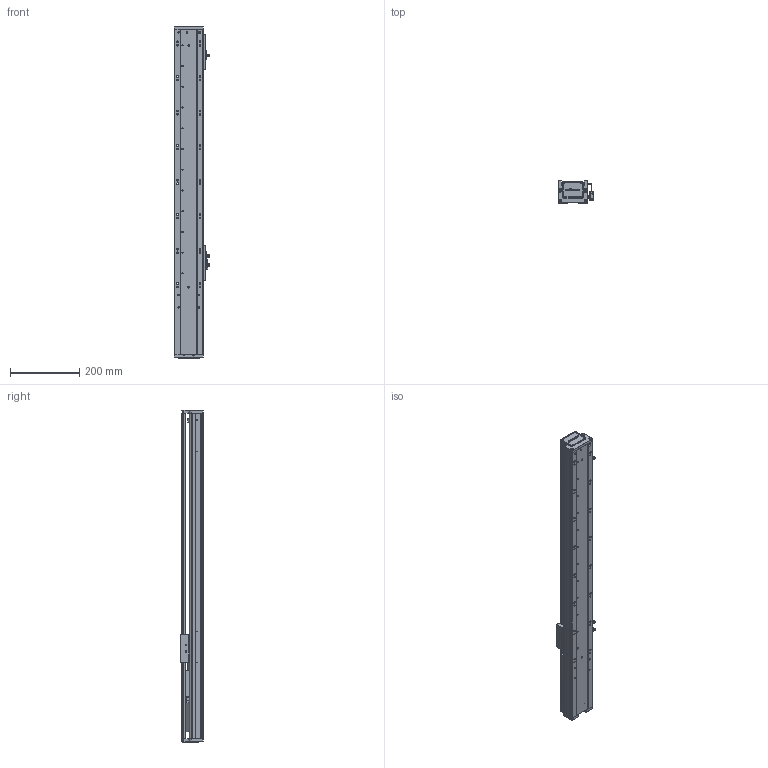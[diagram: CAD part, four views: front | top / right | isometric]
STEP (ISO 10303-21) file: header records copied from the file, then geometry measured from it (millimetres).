
FILE_DESCRIPTION (( 'STEP AP203' ), '1' );
FILE_NAME ('RY80-L1620-300-IK.SLDASM_600.step', '2021-02-22T05:29:07', ( '盈信电脑' ), ( '东莞市道滘镇水果街19号' ), 'SwSTEP 2.0', 'SolidWorks 2012', '' );
FILE_SCHEMA (( 'CONFIG_CONTROL_DESIGN' ));
Products named in the file (14): RY80-L1620-300-IK.SLDASM_600; 滅袉蝶18-24; 侂狟100W; RY80俋离覜茼え; RY80囀离萇儂啣; RY80囀离ヶ啣; 滅袉蝶18-10; 覜茼ん672; RY80綴裔啣; 672嫖萇羲壽假蚾釱; RY80萇儂傷盓傅釱; RY80臏賑輸; RY80-300倰第奻裔啣-IK_600; RY80-300倰第菁釱-IK_600
Assembly tree (16 placements, depth 2):
  RY80-L1620-300-IK.SLDASM_600
    RY80-300倰第菁釱-IK_600
    RY80臏賑輸
    RY80-300倰第奻裔啣-IK_600
    RY80萇儂傷盓傅釱
    RY80綴裔啣
    滅袉蝶18-10
    672嫖萇羲壽假蚾釱  x2
    覜茼ん672  x3
    RY80俋离覜茼え
    侂狟100W
    RY80囀离萇儂啣
    RY80囀离ヶ啣
    滅袉蝶18-24
Bounding box: 103.7 x 65 x 961 mm (x, y, z)
Volume: 1660184.9 mm3; surface area: 694190.3 mm2
Topology: 16 solids, 16 shells, 2125 faces, 5910 edges, 3855 vertices
Faces by surface type: plane 1282, cylinder 704, cone 95, bspline 44
Entity records: 67677 total; most frequent: CARTESIAN_POINT 17351, ORIENTED_EDGE 10540, DIRECTION 9463, EDGE_CURVE 5270, VECTOR 3477, LINE 3477, VERTEX_POINT 3471, AXIS2_PLACEMENT_3D 2993
